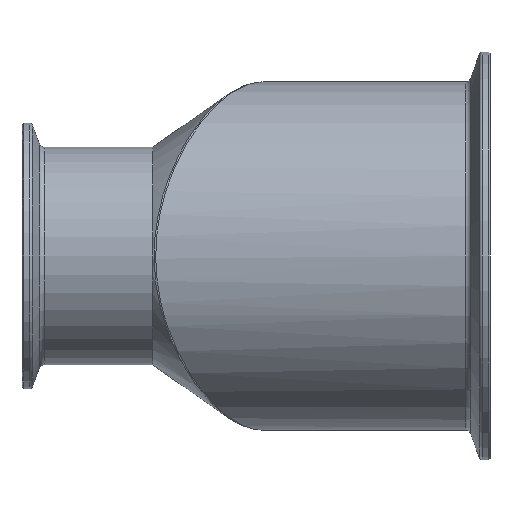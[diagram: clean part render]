
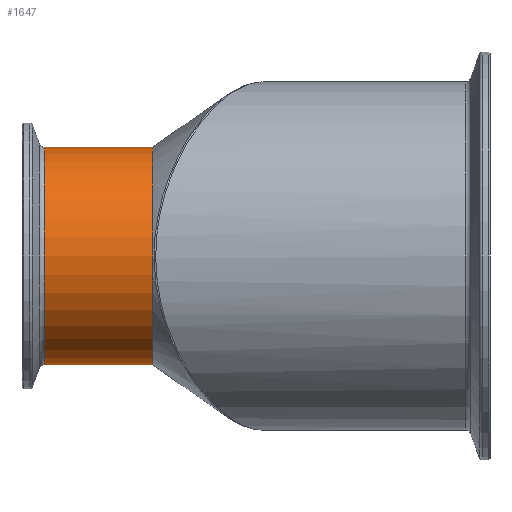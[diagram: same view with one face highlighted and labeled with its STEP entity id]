
A CAD part, front view. The second image highlights one B-rep face of the part: STEP entity #1647.
In plain terms, the highlighted cylindrical face has radius 31.75 mm (diameter 63.5 mm), a partial arc.
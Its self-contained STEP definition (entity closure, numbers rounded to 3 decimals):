
#36 = DIRECTION ( 'NONE',  ( -1., 0., 0. ) ) ;
#116 = CARTESIAN_POINT ( 'NONE',  ( 6.518, -18.601, -31.75 ) ) ;
#231 = EDGE_LOOP ( 'NONE', ( #985, #1340, #1986, #1924 ) ) ;
#243 = DIRECTION ( 'NONE',  ( 0., 0., 1. ) ) ;
#499 = FACE_OUTER_BOUND ( 'NONE', #231, .T. ) ;
#506 = LINE ( 'NONE', #790, #947 ) ;
#551 = CARTESIAN_POINT ( 'NONE',  ( -31.401, -18.601, -31.75 ) ) ;
#742 = DIRECTION ( 'NONE',  ( -1., 0., 0. ) ) ;
#753 = VERTEX_POINT ( 'NONE', #2028 ) ;
#790 = CARTESIAN_POINT ( 'NONE',  ( -31.401, -18.601, 31.75 ) ) ;
#833 = EDGE_CURVE ( 'NONE', #1025, #890, #1373, .T. ) ;
#890 = VERTEX_POINT ( 'NONE', #1220 ) ;
#947 = VECTOR ( 'NONE', #742, 1000. ) ;
#950 = DIRECTION ( 'NONE',  ( -1., 0., 0. ) ) ;
#985 = ORIENTED_EDGE ( 'NONE', *, *, #1781, .F. ) ;
#1025 = VERTEX_POINT ( 'NONE', #116 ) ;
#1127 = CYLINDRICAL_SURFACE ( 'NONE', #1852, 31.75 ) ;
#1136 = CIRCLE ( 'NONE', #2062, 31.75 ) ;
#1143 = CARTESIAN_POINT ( 'NONE',  ( 6.518, -18.601, 0. ) ) ;
#1149 = DIRECTION ( 'NONE',  ( -1., 0., 0. ) ) ;
#1160 = DIRECTION ( 'NONE',  ( 0., 0., 1. ) ) ;
#1220 = CARTESIAN_POINT ( 'NONE',  ( 6.518, -18.601, 31.75 ) ) ;
#1268 = VECTOR ( 'NONE', #2061, 1000. ) ;
#1340 = ORIENTED_EDGE ( 'NONE', *, *, #2150, .T. ) ;
#1373 = CIRCLE ( 'NONE', #1876, 31.75 ) ;
#1647 = ADVANCED_FACE ( 'NONE', ( #499 ), #1127, .T. ) ;
#1661 = CARTESIAN_POINT ( 'NONE',  ( 38.1, -18.601, 31.75 ) ) ;
#1746 = CARTESIAN_POINT ( 'NONE',  ( -31.401, -18.601, 0. ) ) ;
#1781 = EDGE_CURVE ( 'NONE', #753, #1025, #2394, .T. ) ;
#1852 = AXIS2_PLACEMENT_3D ( 'NONE', #1746, #36, #243 ) ;
#1876 = AXIS2_PLACEMENT_3D ( 'NONE', #1143, #1149, #1160 ) ;
#1924 = ORIENTED_EDGE ( 'NONE', *, *, #833, .F. ) ;
#1986 = ORIENTED_EDGE ( 'NONE', *, *, #2300, .T. ) ;
#2028 = CARTESIAN_POINT ( 'NONE',  ( 38.1, -18.601, -31.75 ) ) ;
#2061 = DIRECTION ( 'NONE',  ( -1., 0., 0. ) ) ;
#2062 = AXIS2_PLACEMENT_3D ( 'NONE', #2221, #950, #2419 ) ;
#2150 = EDGE_CURVE ( 'NONE', #753, #2309, #1136, .T. ) ;
#2221 = CARTESIAN_POINT ( 'NONE',  ( 38.1, -18.601, 0. ) ) ;
#2300 = EDGE_CURVE ( 'NONE', #2309, #890, #506, .T. ) ;
#2309 = VERTEX_POINT ( 'NONE', #1661 ) ;
#2394 = LINE ( 'NONE', #551, #1268 ) ;
#2419 = DIRECTION ( 'NONE',  ( 0., 0., 1. ) ) ;
